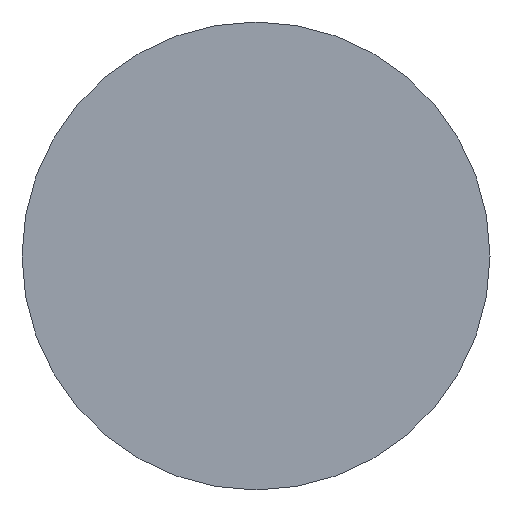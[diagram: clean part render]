
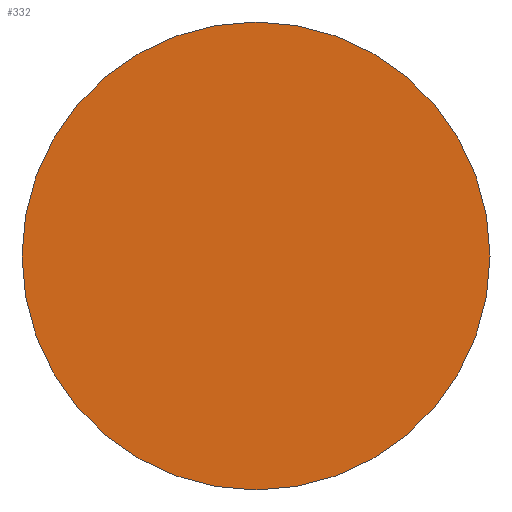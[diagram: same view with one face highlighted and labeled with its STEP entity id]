
A CAD part, top view. The second image highlights one B-rep face of the part: STEP entity #332.
In plain terms, the highlighted planar face has unit normal (0, 0, 1).
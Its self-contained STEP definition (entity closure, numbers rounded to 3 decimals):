
#265 = CONICAL_SURFACE('',#266,9.775,0.761);
#266 = AXIS2_PLACEMENT_3D('',#267,#268,#269);
#267 = CARTESIAN_POINT('',(0.,0.,28.434));
#268 = DIRECTION('',(0.,0.,1.));
#269 = DIRECTION('',(1.,0.,-0.));
#283 = VERTEX_POINT('',#284);
#284 = CARTESIAN_POINT('',(31.1,0.,50.82));
#305 = EDGE_CURVE('',#283,#283,#306,.T.);
#306 = SURFACE_CURVE('',#307,(#312,#319),.PCURVE_S1.);
#307 = CIRCLE('',#308,31.1);
#308 = AXIS2_PLACEMENT_3D('',#309,#310,#311);
#309 = CARTESIAN_POINT('',(0.,0.,50.82));
#310 = DIRECTION('',(0.,0.,1.));
#311 = DIRECTION('',(1.,0.,-0.));
#312 = PCURVE('',#265,#313);
#313 = DEFINITIONAL_REPRESENTATION('',(#314),#318);
#314 = LINE('',#315,#316);
#315 = CARTESIAN_POINT('',(0.,22.386));
#316 = VECTOR('',#317,1.);
#317 = DIRECTION('',(1.,0.));
#318 = ( GEOMETRIC_REPRESENTATION_CONTEXT(2) 
PARAMETRIC_REPRESENTATION_CONTEXT() REPRESENTATION_CONTEXT('2D SPACE',''
  ) );
#319 = PCURVE('',#320,#325);
#320 = PLANE('',#321);
#321 = AXIS2_PLACEMENT_3D('',#322,#323,#324);
#322 = CARTESIAN_POINT('',(0.,0.,50.82));
#323 = DIRECTION('',(0.,0.,1.));
#324 = DIRECTION('',(1.,0.,-0.));
#325 = DEFINITIONAL_REPRESENTATION('',(#326),#330);
#326 = CIRCLE('',#327,31.1);
#327 = AXIS2_PLACEMENT_2D('',#328,#329);
#328 = CARTESIAN_POINT('',(0.,0.));
#329 = DIRECTION('',(1.,0.));
#330 = ( GEOMETRIC_REPRESENTATION_CONTEXT(2) 
PARAMETRIC_REPRESENTATION_CONTEXT() REPRESENTATION_CONTEXT('2D SPACE',''
  ) );
#332 = ADVANCED_FACE('',(#333),#320,.T.);
#333 = FACE_BOUND('',#334,.T.);
#334 = EDGE_LOOP('',(#335));
#335 = ORIENTED_EDGE('',*,*,#305,.T.);
